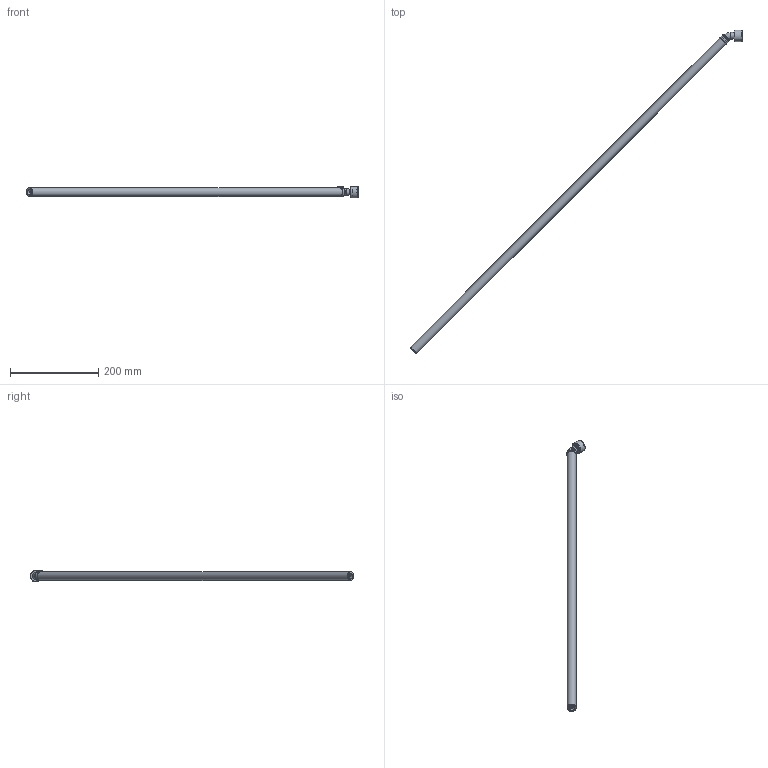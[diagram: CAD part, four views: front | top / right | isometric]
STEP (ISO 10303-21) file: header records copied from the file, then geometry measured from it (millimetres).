
FILE_DESCRIPTION( ( 'STEP AP203' ), '1' );
FILE_NAME( 'C:/Temp/Ganter_Step_05_03_2020/data/3_5/gn880_1/gn880_1_ans_abl/gn_880_1_b/Connector piece with drain hose GN 880.1-22-B-1000-T.stp', '2020-03-12T13:42:30', ( 'License CC BY-ND 4.0' ), ( 'CADENAS' ), ' ', 'PARTsolutions', ' ' );
FILE_SCHEMA( ( 'CONFIG_CONTROL_DESIGN' ) );
Length unit declared in the file: millimetre
Products named in the file (6): Connector piece with drain hose GN 880.1-22-B-1000-T; _Anschlussstueck mit Ablassschlauch GN 880.1-22-B-1000-T_a; _Anschlussstueck mit Ablassschlauch GN 880.1-22-B-1000-T_s; _Anschlussstueck mit Ablassschlauch GN 880.1-22-B-1000-T_dk; _Anschlussstueck mit Ablassschlauch GN 880.1-22-B-1000-T_sc; _Anschlussstueck mit Ablassschlauch GN 880.1-22-B-1000-T_dk2
Assembly tree (5 placements, depth 2):
  Connector piece with drain hose GN 880.1-22-B-1000-T
    _Anschlussstueck mit Ablassschlauch GN 880.1-22-B-1000-T_a
    _Anschlussstueck mit Ablassschlauch GN 880.1-22-B-1000-T_s
    _Anschlussstueck mit Ablassschlauch GN 880.1-22-B-1000-T_dk
    _Anschlussstueck mit Ablassschlauch GN 880.1-22-B-1000-T_sc
    _Anschlussstueck mit Ablassschlauch GN 880.1-22-B-1000-T_dk2
Bounding box: 751.43 x 733.08 x 26.5 mm (x, y, z)
Volume: 169503.3 mm3; surface area: 117510.3 mm2
Topology: 5 solids, 5 shells, 60 faces, 110 edges, 71 vertices
Faces by surface type: plane 27, cylinder 25, torus 5, cone 3
Full cylindrical faces by diameter (mm): 8.5 x1, 9.5 x1, 10.5 x2, 12 x1, 13 x2, 14 x2, 15 x4, 20 x4, 20.376 x1, 26 x1
Entity records: 1557 total; most frequent: DIRECTION 270, CARTESIAN_POINT 217, ORIENTED_EDGE 162, AXIS2_PLACEMENT_3D 123, EDGE_LOOP 106, FACE_OUTER_BOUND 84, EDGE_CURVE 81, VERTEX_POINT 70
